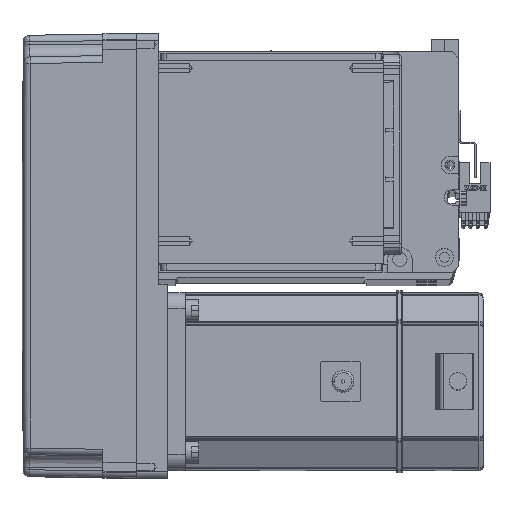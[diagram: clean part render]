
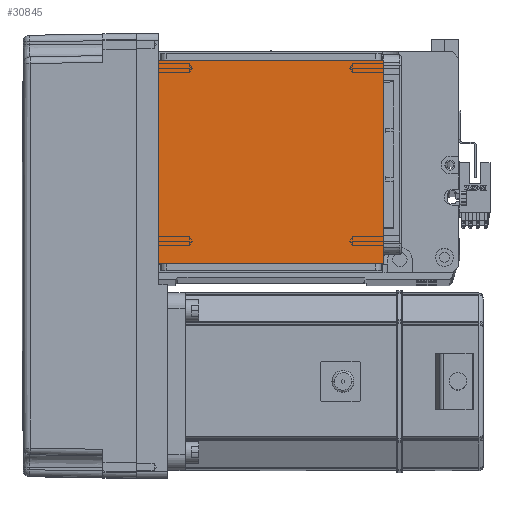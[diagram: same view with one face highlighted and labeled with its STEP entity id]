
A CAD part, top view. The second image highlights one B-rep face of the part: STEP entity #30845.
In plain terms, the highlighted planar face has unit normal (0, 0, 1).
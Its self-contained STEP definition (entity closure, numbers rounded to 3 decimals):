
#5112 = LINE ( 'NONE', #17174, #50284 ) ;
#8531 = ORIENTED_EDGE ( 'NONE', *, *, #47515, .T. ) ;
#12960 = VERTEX_POINT ( 'NONE', #57404 ) ;
#13029 = VERTEX_POINT ( 'NONE', #56804 ) ;
#15092 = LINE ( 'NONE', #20045, #55905 ) ;
#16616 = DIRECTION ( 'NONE',  ( 0., 0., 1. ) ) ;
#17174 = CARTESIAN_POINT ( 'NONE',  ( -50.5, 122., 115. ) ) ;
#18585 = FACE_OUTER_BOUND ( 'NONE', #49467, .T. ) ;
#19928 = LINE ( 'NONE', #28531, #50567 ) ;
#20045 = CARTESIAN_POINT ( 'NONE',  ( -70.004, 20., 115. ) ) ;
#20708 = DIRECTION ( 'NONE',  ( 1., 0., 0. ) ) ;
#20797 = ORIENTED_EDGE ( 'NONE', *, *, #23694, .F. ) ;
#22740 = CARTESIAN_POINT ( 'NONE',  ( 50.5, 111.5, 115. ) ) ;
#23694 = EDGE_CURVE ( 'NONE', #13029, #42204, #15092, .T. ) ;
#28531 = CARTESIAN_POINT ( 'NONE',  ( -70.004, 111.5, 115. ) ) ;
#29068 = ORIENTED_EDGE ( 'NONE', *, *, #48061, .T. ) ;
#29737 = VECTOR ( 'NONE', #30962, 1000. ) ;
#30845 = ADVANCED_FACE ( 'NONE', ( #18585 ), #39426, .T. ) ;
#30962 = DIRECTION ( 'NONE',  ( 0., 1., 0. ) ) ;
#32192 = EDGE_CURVE ( 'NONE', #12960, #58213, #19928, .T. ) ;
#32687 = LINE ( 'NONE', #44413, #29737 ) ;
#39426 = PLANE ( 'NONE',  #55484 ) ;
#40293 = CARTESIAN_POINT ( 'NONE',  ( -50.5, 20., 115. ) ) ;
#42204 = VERTEX_POINT ( 'NONE', #40293 ) ;
#43482 = DIRECTION ( 'NONE',  ( -1., 0., 0. ) ) ;
#44413 = CARTESIAN_POINT ( 'NONE',  ( 50.5, 122., 115. ) ) ;
#44540 = CARTESIAN_POINT ( 'NONE',  ( 0., 0., 115. ) ) ;
#47515 = EDGE_CURVE ( 'NONE', #12960, #42204, #5112, .T. ) ;
#48061 = EDGE_CURVE ( 'NONE', #13029, #58213, #32687, .T. ) ;
#49467 = EDGE_LOOP ( 'NONE', ( #55719, #8531, #20797, #29068 ) ) ;
#50284 = VECTOR ( 'NONE', #59359, 1000. ) ;
#50567 = VECTOR ( 'NONE', #56851, 1000. ) ;
#55484 = AXIS2_PLACEMENT_3D ( 'NONE', #44540, #16616, #20708 ) ;
#55719 = ORIENTED_EDGE ( 'NONE', *, *, #32192, .F. ) ;
#55905 = VECTOR ( 'NONE', #43482, 1000. ) ;
#56804 = CARTESIAN_POINT ( 'NONE',  ( 50.5, 20., 115. ) ) ;
#56851 = DIRECTION ( 'NONE',  ( 1., 0., 0. ) ) ;
#57404 = CARTESIAN_POINT ( 'NONE',  ( -50.5, 111.5, 115. ) ) ;
#58213 = VERTEX_POINT ( 'NONE', #22740 ) ;
#59359 = DIRECTION ( 'NONE',  ( 0., -1., 0. ) ) ;
